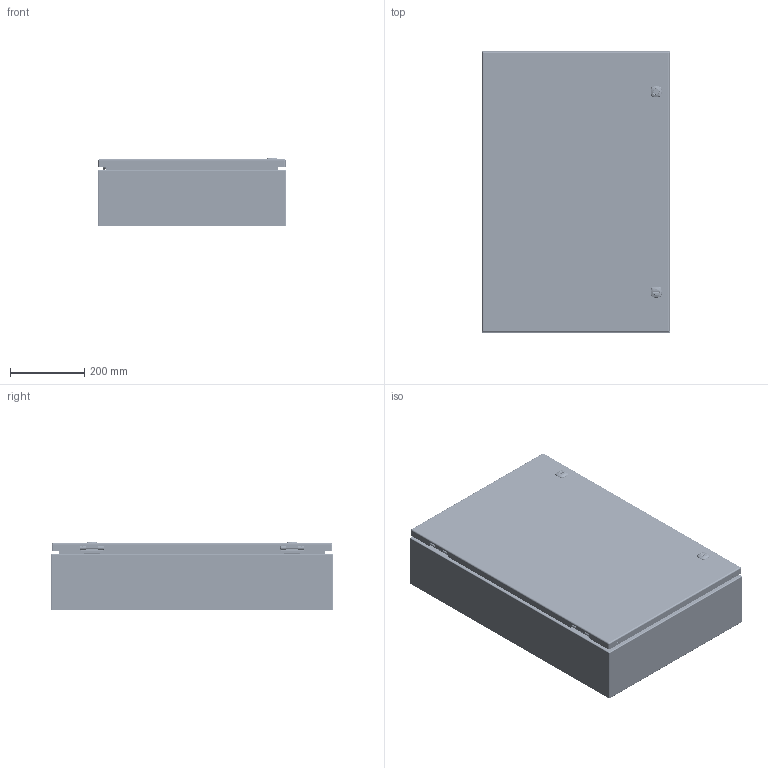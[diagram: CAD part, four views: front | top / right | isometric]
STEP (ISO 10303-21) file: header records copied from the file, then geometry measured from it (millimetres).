
FILE_DESCRIPTION(/* description */ ('5412ES 30" x 20" x 6" Assembly'),/* implementation_level */ '2;1');
FILE_NAME(/* name */ '5412ES302006.stp',/* time_stamp */ '2024-10-17T05:53:09-04:00',/* author */ ('BoxCad'),/* organization */ (''),/* preprocessor_version */ 'ST-DEVELOPER v20',/* originating_system */ 'Autodesk Inventor 2024',/* authorisation */ '');
FILE_SCHEMA (('AUTOMOTIVE_DESIGN { 1 0 10303 214 3 1 1 }'));
Products named in the file (44): 5412ES302006; 5412ES302006B; 5412ES302006B-P; STK-Q-16005; STUD_M6 x 16mm; 5412ES302006C; 5412ES302006C-P; 5412ES302006G; STK-K-09800-1; STK-K-09800-2; STK-Q-33014; STK-Q-90398; STK-Q-40095; STK-Q-63410; STK-Q-16055; STK-Q-46020-30; STK-Q-07220-1; STK-Q-07220-2; STK-Q-07220-3; STK-Q-07220-4; STK-Q-07220-A; STK-Q-07220-B; STK-P-02400S; STK-S-00100; STK-K-12500; STK-Q-78111; STK-Q-78141; STK-Q-78120; STK-Q-78145; STK-Q-03610; STK-Q-78160; STK-Q-90390; STK-Q-78111-R; STK-Q-04050-08-1; STK-Q-04050-08-2; STK-Q-04050-08-P; STK-Q-04051-N; STK-A-01800; 880 PP; 5412ES302006IPK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
Assembly tree (74 placements, depth 4):
  5412ES302006
    5412ES302006B
      5412ES302006B-P
      STK-Q-16005  x4
      STK-P-02400S
      STUD_M6 x 16mm
    5412ES302006C
      5412ES302006C-P
      5412ES302006G
      STK-K-09800-1
        STK-Q-33014
        STK-Q-90398
        STK-Q-40095  x2
        STK-Q-63410  x2
      STK-K-09800-2
        STK-Q-33014
        STK-Q-90398
        STK-Q-40095  x2
        STK-Q-63410  x2
      STK-Q-16055  x4
      STK-Q-46020-30  x2
      STK-Q-07220-1
        STK-Q-07220-A
        STK-Q-07220-B
      STK-Q-07220-2
        STK-Q-07220-A
        STK-Q-07220-B
      STK-Q-07220-3
        STK-Q-07220-A
        STK-Q-07220-B
      STK-Q-07220-4
        STK-Q-07220-A
        STK-Q-07220-B
      STK-P-02400S
      STK-S-00100
      STK-K-12500  x2
        STK-Q-78111
        STK-Q-78141
        STK-Q-78120
        STK-Q-78145
        STK-Q-03610
        STK-Q-78160
        STK-Q-90390
        STK-Q-78111-R
    STK-Q-04050-08-1
      STK-Q-04050-08-P
      STK-Q-04051-N
    STK-Q-04050-08-2
      STK-Q-04050-08-P
      STK-Q-04051-N
    STK-A-01800
    880 PP
    5412ES302006IPK
      STK-Q-07610  x4
      STK-Q-07310  x4
    881SP3020G
      881SP3020G-P
Bounding box: 508.07 x 762 x 185.67 mm (x, y, z)
Volume: 2936729.7 mm3; surface area: 3588239.1 mm2
Topology: 64 solids, 64 shells, 10122 faces, 26635 edges, 16668 vertices
Faces by surface type: bspline 3432, plane 3061, cylinder 2571, torus 702, sphere 220, cone 136
Full cylindrical faces by diameter (mm): 0.75 x9, 0.762 x9, 1 x8, 1.1 x8, 3.2 x4, 4.191 x52, 4.5 x4, 4.521 x8, 4.75 x2, 4.85 x16, 4.95 x4, 5 x4, 5.1 x30, 5.156 x4, 5.6 x2, 5.9 x31, 6.015 x52, 6.65 x4, 6.8 x4, 6.85 x16, 7.3 x2, 7.366 x4, 7.9 x8, 8 x12, 8.382 x2, 9.5 x4, 9.6 x2, 9.906 x4, 10 x2, 12 x2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
Entity records: 157717 total; most frequent: CARTESIAN_POINT 62849, ORIENTED_EDGE 21354, DIRECTION 16068, EDGE_CURVE 10677, VERTEX_POINT 6674, AXIS2_PLACEMENT_3D 5965, EDGE_LOOP 4441, FACE_OUTER_BOUND 4179
